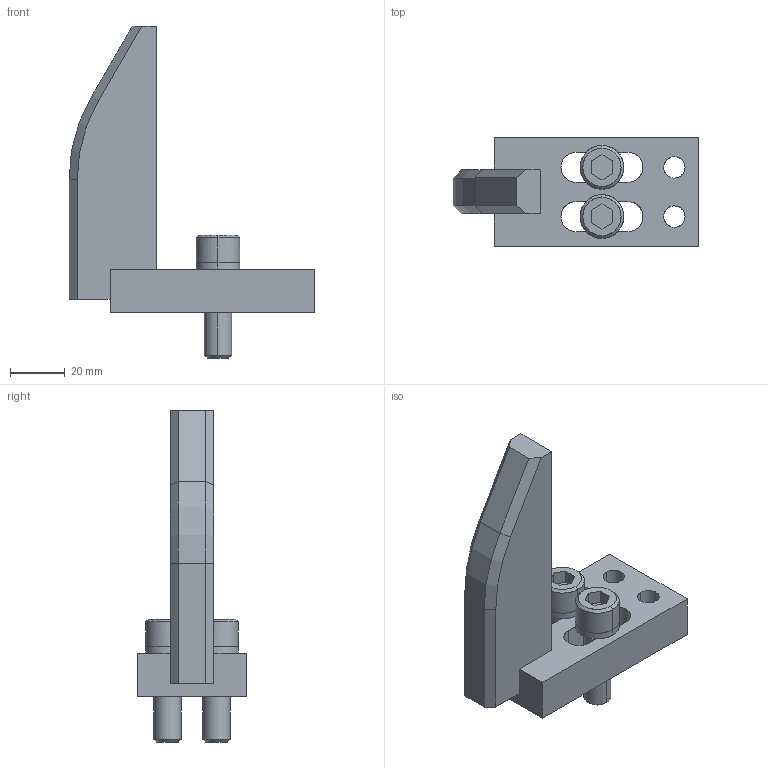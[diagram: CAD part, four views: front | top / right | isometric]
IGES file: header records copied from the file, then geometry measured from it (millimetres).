
Global section: file name: E:\UnigraphicsGraphicData\MISUMI_PRESS-PARTS\IGES\3d_ngnbc-105-40-m10_01534_r00.igs; native system: NX V5.0; preprocessor: UGS NX IGES V5.0; author: MISUMI; date: 20110105.162049; units: millimetre
Bounding box: 90 x 40 x 121.5 mm (x, y, z)
Surface area: 26215.7 mm2 (no closed solid volume)
Topology: 0 solids, 0 shells, 104 faces, 665 edges, 665 vertices
Faces by surface type: bspline 104
